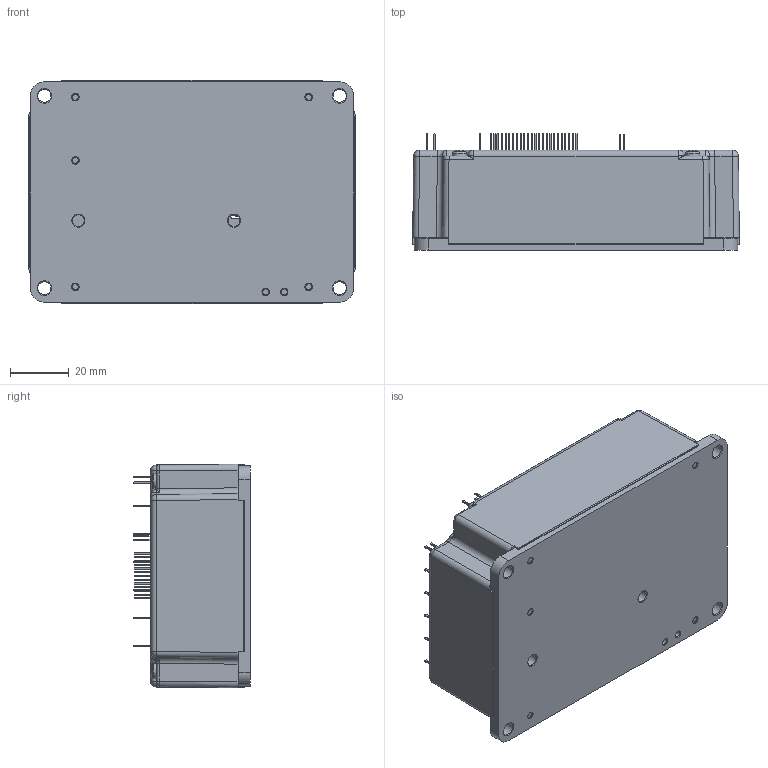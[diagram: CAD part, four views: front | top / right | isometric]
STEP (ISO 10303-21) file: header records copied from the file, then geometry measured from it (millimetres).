
FILE_DESCRIPTION (( 'STEP AP203' ), '1' );
FILE_NAME ('01_gtro(gcon)_asm.STEP', '2014-08-17T07:17:08', ( 'YAEL' ), ( 'Microsoft' ), 'SwSTEP 2.0', 'SolidWorks 2013', '' );
FILE_SCHEMA (( 'CONFIG_CONTROL_DESIGN' ));
Length unit declared in the file: millimetre
Products named in the file (14): SAMTEC_tw-2-10-t-s-244-075; Samtec-FW-13-02-G-D-282-254; int_gtro(gcon)_pcb_asm; MD-00006B; MD-00215A; spacer_m2_5x3; DIN 7985A-M2.5x6; spacer_m2_5x13; conn_asp-161711-01; SAMTEC_dw-02-11-t-s-228; pcb_GCON; pcb_power_asm; 01_gtro(gcon)_asm; SAMTEC_3_94
Assembly tree (24 placements, depth 3):
  01_gtro(gcon)_asm
    MD-00006B
    spacer_m2_5x3  x3
    spacer_m2_5x13  x2
    pcb_power_asm
      SAMTEC_dw-02-11-t-s-228  x6
    int_gtro(gcon)_pcb_asm
      SAMTEC_3_94
      SAMTEC_tw-2-10-t-s-244-075
      Samtec-FW-13-02-G-D-282-254
    MD-00215A
    DIN 7985A-M2.5x6  x4
    pcb_GCON
      conn_asp-161711-01
Bounding box: 111.19 x 39.72 x 76.19 mm (x, y, z)
Volume: 70204.1 mm3; surface area: 60327.8 mm2
Topology: 21 solids, 21 shells, 3315 faces, 9372 edges, 6152 vertices
Faces by surface type: plane 3026, cylinder 146, cone 69, bspline 40, sphere 20, torus 14
Full cylindrical faces by diameter (mm): 0.062 x6, 0.072 x2, 0.165 x1, 0.191 x1, 1.2 x15, 2 x8, 2.05 x9, 2.5 x12, 2.8 x4, 4 x2, 4.5 x4
Entity records: 99005 total; most frequent: CARTESIAN_POINT 18731, ORIENTED_EDGE 17042, DIRECTION 14645, EDGE_CURVE 8521, LINE 8069, VECTOR 8069, VERTEX_POINT 5678, EDGE_LOOP 3435
